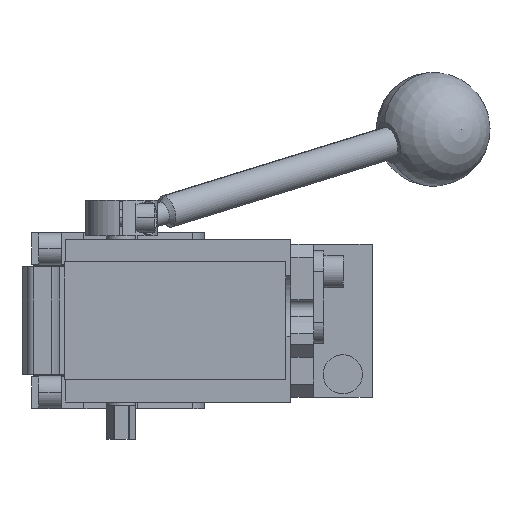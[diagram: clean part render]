
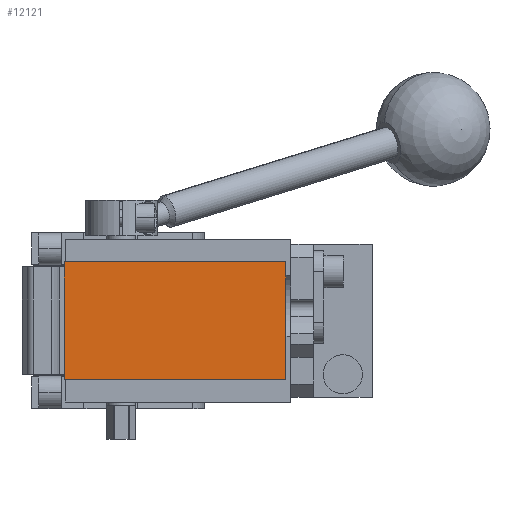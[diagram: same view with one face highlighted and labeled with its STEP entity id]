
A CAD part, front view. The second image highlights one B-rep face of the part: STEP entity #12121.
In plain terms, the highlighted planar face has unit normal (0, -1, 0).
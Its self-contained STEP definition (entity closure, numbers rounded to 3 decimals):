
#916 = DIRECTION ( 'NONE',  ( -1., 0., 0. ) ) ;
#1059 = CARTESIAN_POINT ( 'NONE',  ( 62., -233., -18. ) ) ;
#1278 = ORIENTED_EDGE ( 'NONE', *, *, #11248, .T. ) ;
#1326 = DIRECTION ( 'NONE',  ( 0., 0., -1. ) ) ;
#1410 = DIRECTION ( 'NONE',  ( 1., 0., 0. ) ) ;
#2685 = LINE ( 'NONE', #15857, #7846 ) ;
#3237 = DIRECTION ( 'NONE',  ( 0., 0., -1. ) ) ;
#3319 = CARTESIAN_POINT ( 'NONE',  ( -6., -233., 18. ) ) ;
#3980 = CARTESIAN_POINT ( 'NONE',  ( 0., -233., 0. ) ) ;
#4949 = DIRECTION ( 'NONE',  ( 0., 0., 1. ) ) ;
#5081 = ORIENTED_EDGE ( 'NONE', *, *, #7082, .T. ) ;
#5255 = ORIENTED_EDGE ( 'NONE', *, *, #9487, .T. ) ;
#5444 = FACE_OUTER_BOUND ( 'NONE', #7191, .T. ) ;
#7082 = EDGE_CURVE ( 'NONE', #12453, #11895, #9988, .T. ) ;
#7191 = EDGE_LOOP ( 'NONE', ( #13897, #1278, #5081, #5255 ) ) ;
#7785 = VECTOR ( 'NONE', #4949, 1000. ) ;
#7846 = VECTOR ( 'NONE', #1410, 1000. ) ;
#9386 = EDGE_CURVE ( 'NONE', #13404, #12907, #16313, .T. ) ;
#9487 = EDGE_CURVE ( 'NONE', #11895, #13404, #14147, .T. ) ;
#9988 = LINE ( 'NONE', #15140, #7785 ) ;
#11248 = EDGE_CURVE ( 'NONE', #12907, #12453, #2685, .T. ) ;
#11724 = CARTESIAN_POINT ( 'NONE',  ( -6., -233., -18. ) ) ;
#11895 = VERTEX_POINT ( 'NONE', #13749 ) ;
#12121 = ADVANCED_FACE ( 'NONE', ( #5444 ), #13028, .T. ) ;
#12266 = AXIS2_PLACEMENT_3D ( 'NONE', #3980, #13115, #1326 ) ;
#12453 = VERTEX_POINT ( 'NONE', #1059 ) ;
#12631 = CARTESIAN_POINT ( 'NONE',  ( -6., -233., 18. ) ) ;
#12907 = VERTEX_POINT ( 'NONE', #11724 ) ;
#13028 = PLANE ( 'NONE',  #12266 ) ;
#13115 = DIRECTION ( 'NONE',  ( 0., -1., 0. ) ) ;
#13404 = VERTEX_POINT ( 'NONE', #14057 ) ;
#13749 = CARTESIAN_POINT ( 'NONE',  ( 62., -233., 18. ) ) ;
#13897 = ORIENTED_EDGE ( 'NONE', *, *, #9386, .T. ) ;
#14057 = CARTESIAN_POINT ( 'NONE',  ( -6., -233., 18. ) ) ;
#14147 = LINE ( 'NONE', #12631, #16258 ) ;
#15140 = CARTESIAN_POINT ( 'NONE',  ( 62., -233., 18. ) ) ;
#15175 = VECTOR ( 'NONE', #3237, 1000. ) ;
#15857 = CARTESIAN_POINT ( 'NONE',  ( -6., -233., -18. ) ) ;
#16258 = VECTOR ( 'NONE', #916, 1000. ) ;
#16313 = LINE ( 'NONE', #3319, #15175 ) ;
